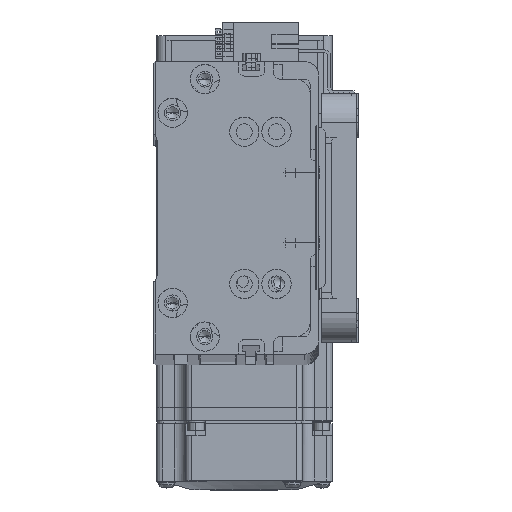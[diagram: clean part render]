
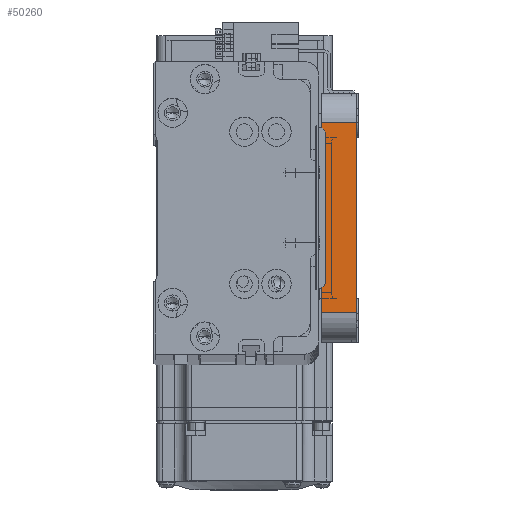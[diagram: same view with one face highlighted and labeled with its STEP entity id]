
A CAD part, top view. The second image highlights one B-rep face of the part: STEP entity #50260.
In plain terms, the highlighted planar face has unit normal (0, 0, 1) as drawn and (-1, 0, 0) by its records, which use the part's own axes.
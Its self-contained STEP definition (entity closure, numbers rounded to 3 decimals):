
#549 = EDGE_CURVE ( 'NONE', #67756, #4938, #32185, .T. ) ;
#1162 = DIRECTION ( 'NONE',  ( 0., 0., -1. ) ) ;
#4938 = VERTEX_POINT ( 'NONE', #54343 ) ;
#5882 = EDGE_LOOP ( 'NONE', ( #48244, #37811, #48675, #17140 ) ) ;
#6180 = CARTESIAN_POINT ( 'NONE',  ( -55., -32.5, 12. ) ) ;
#6743 = PLANE ( 'NONE',  #31379 ) ;
#12206 = CARTESIAN_POINT ( 'NONE',  ( -55., -42.5, 0. ) ) ;
#12445 = CARTESIAN_POINT ( 'NONE',  ( -55., -32.5, 0. ) ) ;
#17140 = ORIENTED_EDGE ( 'NONE', *, *, #549, .T. ) ;
#17492 = VECTOR ( 'NONE', #20700, 1000. ) ;
#19301 = CARTESIAN_POINT ( 'NONE',  ( -55., -42.5, 12. ) ) ;
#20506 = EDGE_CURVE ( 'NONE', #4938, #55994, #36693, .T. ) ;
#20700 = DIRECTION ( 'NONE',  ( 0., 0., 1. ) ) ;
#24194 = DIRECTION ( 'NONE',  ( 0., -1., 0. ) ) ;
#28198 = VECTOR ( 'NONE', #47522, 1000. ) ;
#31379 = AXIS2_PLACEMENT_3D ( 'NONE', #19301, #37624, #1162 ) ;
#32185 = LINE ( 'NONE', #45500, #62521 ) ;
#36693 = LINE ( 'NONE', #12206, #68977 ) ;
#37624 = DIRECTION ( 'NONE',  ( 1., 0., 0. ) ) ;
#37811 = ORIENTED_EDGE ( 'NONE', *, *, #44722, .T. ) ;
#44722 = EDGE_CURVE ( 'NONE', #55994, #63098, #64100, .T. ) ;
#45500 = CARTESIAN_POINT ( 'NONE',  ( -55., 32.5, 12. ) ) ;
#47522 = DIRECTION ( 'NONE',  ( 0., -1., 0. ) ) ;
#48244 = ORIENTED_EDGE ( 'NONE', *, *, #20506, .T. ) ;
#48675 = ORIENTED_EDGE ( 'NONE', *, *, #53238, .F. ) ;
#50260 = ADVANCED_FACE ( 'NONE', ( #63915 ), #6743, .F. ) ;
#53101 = CARTESIAN_POINT ( 'NONE',  ( -55., 32.5, 12. ) ) ;
#53238 = EDGE_CURVE ( 'NONE', #67756, #63098, #76625, .T. ) ;
#54343 = CARTESIAN_POINT ( 'NONE',  ( -55., 32.5, 0. ) ) ;
#55994 = VERTEX_POINT ( 'NONE', #12445 ) ;
#57088 = CARTESIAN_POINT ( 'NONE',  ( -55., -32.5, 12. ) ) ;
#62521 = VECTOR ( 'NONE', #75499, 1000. ) ;
#63098 = VERTEX_POINT ( 'NONE', #6180 ) ;
#63915 = FACE_OUTER_BOUND ( 'NONE', #5882, .T. ) ;
#64100 = LINE ( 'NONE', #57088, #17492 ) ;
#67756 = VERTEX_POINT ( 'NONE', #53101 ) ;
#68977 = VECTOR ( 'NONE', #24194, 1000. ) ;
#75499 = DIRECTION ( 'NONE',  ( 0., 0., -1. ) ) ;
#76625 = LINE ( 'NONE', #76707, #28198 ) ;
#76707 = CARTESIAN_POINT ( 'NONE',  ( -55., -42.5, 12. ) ) ;
